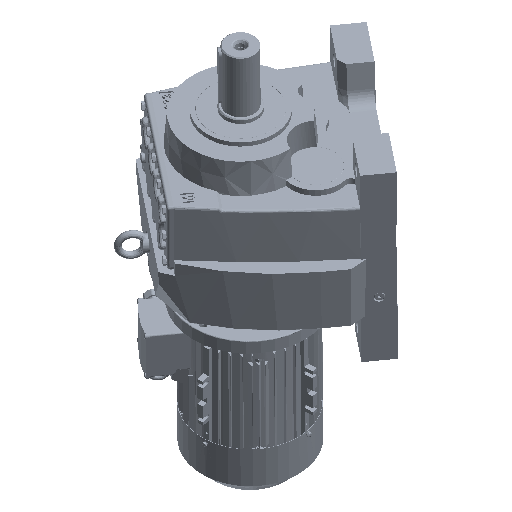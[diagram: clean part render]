
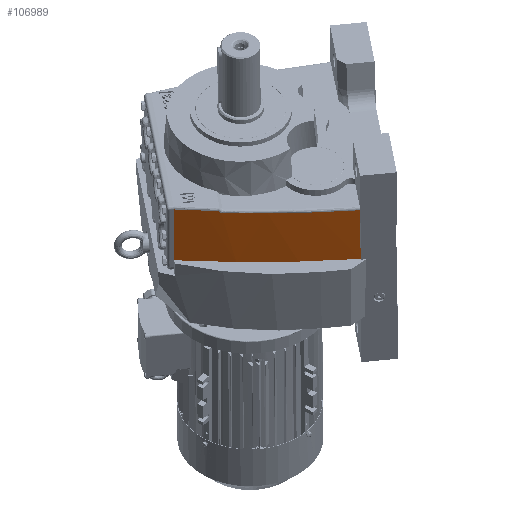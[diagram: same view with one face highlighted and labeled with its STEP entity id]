
A CAD part, left-side view. The second image highlights one B-rep face of the part: STEP entity #106989.
In plain terms, the highlighted conical face has half-angle 1 degrees and reference radius 2039.85 mm.
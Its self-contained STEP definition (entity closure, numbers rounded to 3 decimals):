
#4272 = EDGE_CURVE ( 'NONE', #66535, #66581, #120910, .T. ) ;
#4274 = EDGE_CURVE ( 'NONE', #66581, #66537, #76571, .T. ) ;
#4365 = EDGE_CURVE ( 'NONE', #66578, #66535, #76929, .T. ) ;
#4417 = EDGE_CURVE ( 'NONE', #66639, #66598, #76998, .T. ) ;
#4421 = EDGE_CURVE ( 'NONE', #66537, #66598, #121064, .T. ) ;
#4458 = EDGE_CURVE ( 'NONE', #66578, #66639, #77107, .T. ) ;
#7079 = CARTESIAN_POINT ( 'NONE',  ( 1839.599, -281.981, 30. ) ) ;
#7080 = DIRECTION ( 'NONE',  ( 0., 0., -1. ) ) ;
#7082 = DIRECTION ( 'NONE',  ( -1., 0., 0. ) ) ;
#18650 = EDGE_LOOP ( 'NONE', ( #29721, #29795, #29914, #29895, #29821, #29569 ) ) ;
#29569 = ORIENTED_EDGE ( 'NONE', *, *, #4417, .F. ) ;
#29721 = ORIENTED_EDGE ( 'NONE', *, *, #4458, .F. ) ;
#29795 = ORIENTED_EDGE ( 'NONE', *, *, #4365, .T. ) ;
#29821 = ORIENTED_EDGE ( 'NONE', *, *, #4421, .T. ) ;
#29895 = ORIENTED_EDGE ( 'NONE', *, *, #4274, .T. ) ;
#29914 = ORIENTED_EDGE ( 'NONE', *, *, #4272, .T. ) ;
#56531 = AXIS2_PLACEMENT_3D ( 'NONE', #80573, #80503, #80504 ) ;
#56573 = AXIS2_PLACEMENT_3D ( 'NONE', #78112, #78122, #78124 ) ;
#56589 = AXIS2_PLACEMENT_3D ( 'NONE', #78727, #78699, #78625 ) ;
#66535 = VERTEX_POINT ( 'NONE', #96822 ) ;
#66537 = VERTEX_POINT ( 'NONE', #96818 ) ;
#66578 = VERTEX_POINT ( 'NONE', #96824 ) ;
#66581 = VERTEX_POINT ( 'NONE', #96845 ) ;
#66598 = VERTEX_POINT ( 'NONE', #96895 ) ;
#66639 = VERTEX_POINT ( 'NONE', #96866 ) ;
#76571 = CIRCLE ( 'NONE', #56531, 2037.789 ) ;
#76929 = CIRCLE ( 'NONE', #56573, 2037.876 ) ;
#76998 = CIRCLE ( 'NONE', #56589, 2039.85 ) ;
#77107 = LINE ( 'NONE', #78953, #77114 ) ;
#77114 = VECTOR ( 'NONE', #78980, 1000. ) ;
#78112 = CARTESIAN_POINT ( 'NONE',  ( 1839.599, -281.981, 143.087 ) ) ;
#78122 = DIRECTION ( 'NONE',  ( 0., 0., -1. ) ) ;
#78124 = DIRECTION ( 'NONE',  ( -1., 0., 0. ) ) ;
#78625 = DIRECTION ( 'NONE',  ( -1., 0., 0. ) ) ;
#78651 = CARTESIAN_POINT ( 'NONE',  ( -154.722, 140., 108.725 ) ) ;
#78676 = CARTESIAN_POINT ( 'NONE',  ( -155.424, 140., 69.362 ) ) ;
#78699 = DIRECTION ( 'NONE',  ( 0., 0., -1. ) ) ;
#78704 = CARTESIAN_POINT ( 'NONE',  ( -156.126, 140., 30. ) ) ;
#78727 = CARTESIAN_POINT ( 'NONE',  ( 1839.599, -281.981, 30. ) ) ;
#78731 = CARTESIAN_POINT ( 'NONE',  ( -154.019, 140., 148.087 ) ) ;
#78953 = CARTESIAN_POINT ( 'NONE',  ( -195.968, -185., 143.087 ) ) ;
#78980 = DIRECTION ( 'NONE',  ( -0.017, 0., -1. ) ) ;
#80503 = DIRECTION ( 'NONE',  ( 0., 0., -1. ) ) ;
#80504 = DIRECTION ( 'NONE',  ( -1., 0., 0. ) ) ;
#80518 = CARTESIAN_POINT ( 'NONE',  ( -169.733, 57.905, 143.087 ) ) ;
#80569 = CARTESIAN_POINT ( 'NONE',  ( -169.107, 61.247, 146.421 ) ) ;
#80571 = CARTESIAN_POINT ( 'NONE',  ( -168.79, 62.917, 148.087 ) ) ;
#80573 = CARTESIAN_POINT ( 'NONE',  ( 1839.599, -281.981, 148.087 ) ) ;
#80614 = CARTESIAN_POINT ( 'NONE',  ( -169.421, 59.576, 144.754 ) ) ;
#96818 = CARTESIAN_POINT ( 'NONE',  ( -154.019, 140., 148.087 ) ) ;
#96822 = CARTESIAN_POINT ( 'NONE',  ( -169.733, 57.905, 143.087 ) ) ;
#96824 = CARTESIAN_POINT ( 'NONE',  ( -195.968, -185., 143.087 ) ) ;
#96845 = CARTESIAN_POINT ( 'NONE',  ( -168.79, 62.917, 148.087 ) ) ;
#96866 = CARTESIAN_POINT ( 'NONE',  ( -197.944, -185., 30. ) ) ;
#96895 = CARTESIAN_POINT ( 'NONE',  ( -156.126, 140., 30. ) ) ;
#106989 = ADVANCED_FACE ( 'NONE', ( #131294 ), #131347, .T. ) ;
#108376 = AXIS2_PLACEMENT_3D ( 'NONE', #7079, #7080, #7082 ) ;
#120910 = B_SPLINE_CURVE_WITH_KNOTS ( 'NONE', 3,
 ( #80518, #80614, #80569, #80571 ),
 .UNSPECIFIED., .F., .F.,
 ( 4, 4 ),
 ( 0., 1. ),
 .UNSPECIFIED. ) ;
#121064 = B_SPLINE_CURVE_WITH_KNOTS ( 'NONE', 3,
 ( #78731, #78651, #78676, #78704 ),
 .UNSPECIFIED., .F., .F.,
 ( 4, 4 ),
 ( 0., 0.118 ),
 .UNSPECIFIED. ) ;
#131294 = FACE_OUTER_BOUND ( 'NONE', #18650, .T. ) ;
#131347 = CONICAL_SURFACE ( 'NONE', #108376, 2039.85, 0.017 ) ;
